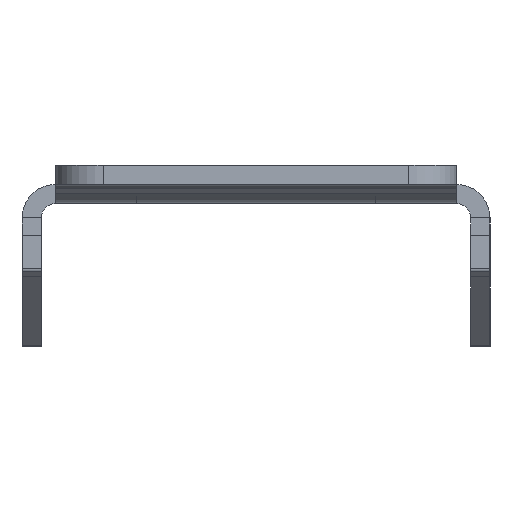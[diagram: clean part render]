
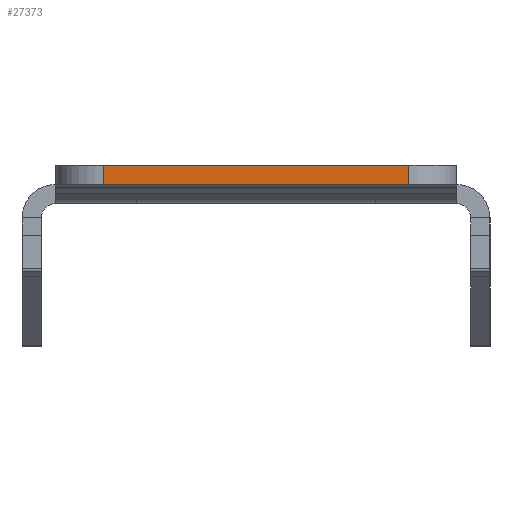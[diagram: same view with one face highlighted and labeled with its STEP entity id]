
A CAD part, left-side view. The second image highlights one B-rep face of the part: STEP entity #27373.
In plain terms, the highlighted planar face has unit normal (-1, 0, 0).
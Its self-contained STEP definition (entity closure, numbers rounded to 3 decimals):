
#508 = EDGE_LOOP ( 'NONE', ( #7113, #24092, #6211, #62265 ) ) ;
#2363 = CARTESIAN_POINT ( 'NONE',  ( -576.002, -16., 9.531 ) ) ;
#4371 = DIRECTION ( 'NONE',  ( 0., 0., -1. ) ) ;
#6211 = ORIENTED_EDGE ( 'NONE', *, *, #37332, .T. ) ;
#6582 = CARTESIAN_POINT ( 'NONE',  ( -576.002, 16., 9.531 ) ) ;
#6814 = VECTOR ( 'NONE', #4371, 1000. ) ;
#7113 = ORIENTED_EDGE ( 'NONE', *, *, #36406, .F. ) ;
#7246 = VERTEX_POINT ( 'NONE', #2363 ) ;
#8803 = LINE ( 'NONE', #46835, #60789 ) ;
#9842 = PLANE ( 'NONE',  #36644 ) ;
#10014 = CARTESIAN_POINT ( 'NONE',  ( -576.002, -16., 9.531 ) ) ;
#11536 = CARTESIAN_POINT ( 'NONE',  ( -576.002, 0., 7.531 ) ) ;
#14475 = DIRECTION ( 'NONE',  ( 0., 0., 1. ) ) ;
#14806 = CARTESIAN_POINT ( 'NONE',  ( -576.002, 16., 9.531 ) ) ;
#16902 = DIRECTION ( 'NONE',  ( 0., 1., 0. ) ) ;
#21669 = LINE ( 'NONE', #11536, #34500 ) ;
#23676 = LINE ( 'NONE', #10014, #37870 ) ;
#24092 = ORIENTED_EDGE ( 'NONE', *, *, #29300, .T. ) ;
#27373 = ADVANCED_FACE ( 'NONE', ( #28240 ), #9842, .T. ) ;
#28240 = FACE_OUTER_BOUND ( 'NONE', #508, .T. ) ;
#29300 = EDGE_CURVE ( 'NONE', #52922, #7246, #23676, .T. ) ;
#33403 = VERTEX_POINT ( 'NONE', #6582 ) ;
#33790 = CARTESIAN_POINT ( 'NONE',  ( -576.002, -16., 7.531 ) ) ;
#34500 = VECTOR ( 'NONE', #16902, 1000. ) ;
#36406 = EDGE_CURVE ( 'NONE', #52922, #43376, #21669, .T. ) ;
#36514 = CARTESIAN_POINT ( 'NONE',  ( -576.002, 16., 7.531 ) ) ;
#36644 = AXIS2_PLACEMENT_3D ( 'NONE', #57393, #38986, #53556 ) ;
#37332 = EDGE_CURVE ( 'NONE', #7246, #33403, #8803, .T. ) ;
#37870 = VECTOR ( 'NONE', #14475, 1000. ) ;
#38986 = DIRECTION ( 'NONE',  ( -1., 0., 0. ) ) ;
#43376 = VERTEX_POINT ( 'NONE', #36514 ) ;
#45531 = EDGE_CURVE ( 'NONE', #33403, #43376, #58221, .T. ) ;
#46835 = CARTESIAN_POINT ( 'NONE',  ( -576.002, 21., 9.531 ) ) ;
#47778 = DIRECTION ( 'NONE',  ( 0., 1., 0. ) ) ;
#52922 = VERTEX_POINT ( 'NONE', #33790 ) ;
#53556 = DIRECTION ( 'NONE',  ( 0., 0., 1. ) ) ;
#57393 = CARTESIAN_POINT ( 'NONE',  ( -576.002, 21., 9.531 ) ) ;
#58221 = LINE ( 'NONE', #14806, #6814 ) ;
#60789 = VECTOR ( 'NONE', #47778, 1000. ) ;
#62265 = ORIENTED_EDGE ( 'NONE', *, *, #45531, .T. ) ;
